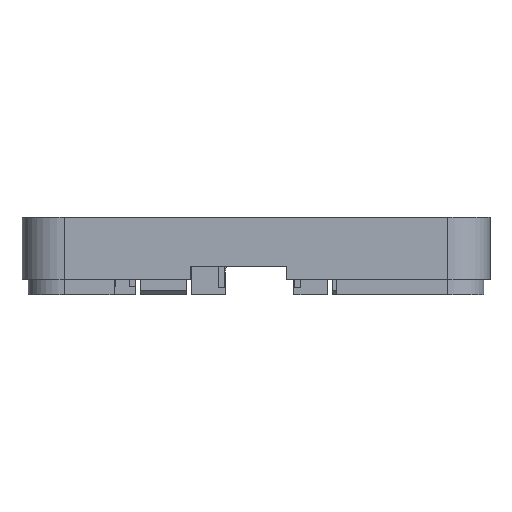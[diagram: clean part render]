
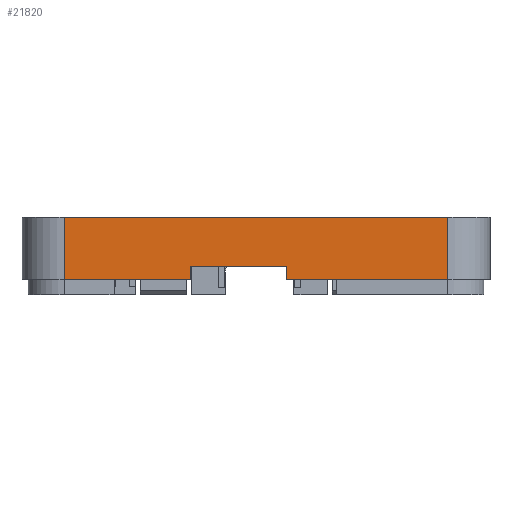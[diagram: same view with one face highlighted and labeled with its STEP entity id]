
A CAD part, left-side view. The second image highlights one B-rep face of the part: STEP entity #21820.
In plain terms, the highlighted planar face has unit normal (-1, 0, 0).
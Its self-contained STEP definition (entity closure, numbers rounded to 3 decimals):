
#133 = LINE ( 'NONE', #7679, #15662 ) ;
#478 = CARTESIAN_POINT ( 'NONE',  ( -33., -4., 1.743 ) ) ;
#569 = CARTESIAN_POINT ( 'NONE',  ( -33., -25., 0. ) ) ;
#1026 = EDGE_CURVE ( 'NONE', #7670, #10089, #6685, .T. ) ;
#1227 = CARTESIAN_POINT ( 'NONE',  ( -33., 25., 0. ) ) ;
#1312 = CARTESIAN_POINT ( 'NONE',  ( -33., -25., 8.1 ) ) ;
#2977 = VECTOR ( 'NONE', #27046, 1000. ) ;
#3065 = EDGE_CURVE ( 'NONE', #13756, #25448, #22510, .T. ) ;
#3226 = FACE_OUTER_BOUND ( 'NONE', #14137, .T. ) ;
#3507 = DIRECTION ( 'NONE',  ( 0., -1., 0. ) ) ;
#3556 = ORIENTED_EDGE ( 'NONE', *, *, #20297, .T. ) ;
#4160 = DIRECTION ( 'NONE',  ( 0., 0., 1. ) ) ;
#4847 = PLANE ( 'NONE',  #20883 ) ;
#5329 = LINE ( 'NONE', #25443, #19177 ) ;
#6685 = LINE ( 'NONE', #26956, #2977 ) ;
#7448 = CARTESIAN_POINT ( 'NONE',  ( -33., -4., 0. ) ) ;
#7670 = VERTEX_POINT ( 'NONE', #8816 ) ;
#7679 = CARTESIAN_POINT ( 'NONE',  ( -33., -4., 1.743 ) ) ;
#8582 = VECTOR ( 'NONE', #4160, 1000. ) ;
#8816 = CARTESIAN_POINT ( 'NONE',  ( -33., 25., 8.1 ) ) ;
#8886 = LINE ( 'NONE', #15674, #15641 ) ;
#8960 = CARTESIAN_POINT ( 'NONE',  ( -33., -25., 8.1 ) ) ;
#9431 = VECTOR ( 'NONE', #24073, 1000. ) ;
#9934 = ORIENTED_EDGE ( 'NONE', *, *, #22100, .F. ) ;
#10089 = VERTEX_POINT ( 'NONE', #10589 ) ;
#10301 = EDGE_CURVE ( 'NONE', #7670, #19298, #8886, .T. ) ;
#10589 = CARTESIAN_POINT ( 'NONE',  ( -33., 25., 0. ) ) ;
#11126 = CARTESIAN_POINT ( 'NONE',  ( -33., 8.6, 1.743 ) ) ;
#11240 = CARTESIAN_POINT ( 'NONE',  ( -33., 25., 8.1 ) ) ;
#11594 = VERTEX_POINT ( 'NONE', #7448 ) ;
#11809 = DIRECTION ( 'NONE',  ( 0., 1., 0. ) ) ;
#11981 = VECTOR ( 'NONE', #26795, 1000. ) ;
#12138 = ORIENTED_EDGE ( 'NONE', *, *, #26615, .T. ) ;
#12486 = DIRECTION ( 'NONE',  ( 0., -1., 0. ) ) ;
#13756 = VERTEX_POINT ( 'NONE', #11126 ) ;
#14137 = EDGE_LOOP ( 'NONE', ( #3556, #22302, #9934, #19501, #12138, #23331, #19202, #27994 ) ) ;
#14888 = CARTESIAN_POINT ( 'NONE',  ( -33., -4., 0. ) ) ;
#15291 = DIRECTION ( 'NONE',  ( 1., 0., 0. ) ) ;
#15641 = VECTOR ( 'NONE', #26381, 1000. ) ;
#15662 = VECTOR ( 'NONE', #11809, 1000. ) ;
#15674 = CARTESIAN_POINT ( 'NONE',  ( -33., 25., 8.1 ) ) ;
#16340 = VERTEX_POINT ( 'NONE', #569 ) ;
#17416 = DIRECTION ( 'NONE',  ( 0., 0., -1. ) ) ;
#17915 = VECTOR ( 'NONE', #3507, 1000. ) ;
#19177 = VECTOR ( 'NONE', #12486, 1000. ) ;
#19202 = ORIENTED_EDGE ( 'NONE', *, *, #10301, .F. ) ;
#19298 = VERTEX_POINT ( 'NONE', #1312 ) ;
#19388 = LINE ( 'NONE', #14888, #8582 ) ;
#19501 = ORIENTED_EDGE ( 'NONE', *, *, #22364, .F. ) ;
#19918 = LINE ( 'NONE', #8960, #9431 ) ;
#20251 = CARTESIAN_POINT ( 'NONE',  ( -33., 8.6, 0. ) ) ;
#20297 = EDGE_CURVE ( 'NONE', #10089, #25448, #5329, .T. ) ;
#20598 = LINE ( 'NONE', #1227, #17915 ) ;
#20883 = AXIS2_PLACEMENT_3D ( 'NONE', #11240, #15291, #17416 ) ;
#21820 = ADVANCED_FACE ( 'NONE', ( #3226 ), #4847, .F. ) ;
#22100 = EDGE_CURVE ( 'NONE', #23742, #13756, #133, .T. ) ;
#22302 = ORIENTED_EDGE ( 'NONE', *, *, #3065, .F. ) ;
#22364 = EDGE_CURVE ( 'NONE', #11594, #23742, #19388, .T. ) ;
#22510 = LINE ( 'NONE', #24920, #11981 ) ;
#23331 = ORIENTED_EDGE ( 'NONE', *, *, #27007, .F. ) ;
#23742 = VERTEX_POINT ( 'NONE', #478 ) ;
#24073 = DIRECTION ( 'NONE',  ( 0., 0., -1. ) ) ;
#24920 = CARTESIAN_POINT ( 'NONE',  ( -33., 8.6, 0. ) ) ;
#25443 = CARTESIAN_POINT ( 'NONE',  ( -33., 25., 0. ) ) ;
#25448 = VERTEX_POINT ( 'NONE', #20251 ) ;
#26381 = DIRECTION ( 'NONE',  ( 0., -1., 0. ) ) ;
#26615 = EDGE_CURVE ( 'NONE', #11594, #16340, #20598, .T. ) ;
#26795 = DIRECTION ( 'NONE',  ( 0., 0., -1. ) ) ;
#26956 = CARTESIAN_POINT ( 'NONE',  ( -33., 25., 8.1 ) ) ;
#27007 = EDGE_CURVE ( 'NONE', #19298, #16340, #19918, .T. ) ;
#27046 = DIRECTION ( 'NONE',  ( 0., 0., -1. ) ) ;
#27994 = ORIENTED_EDGE ( 'NONE', *, *, #1026, .T. ) ;
